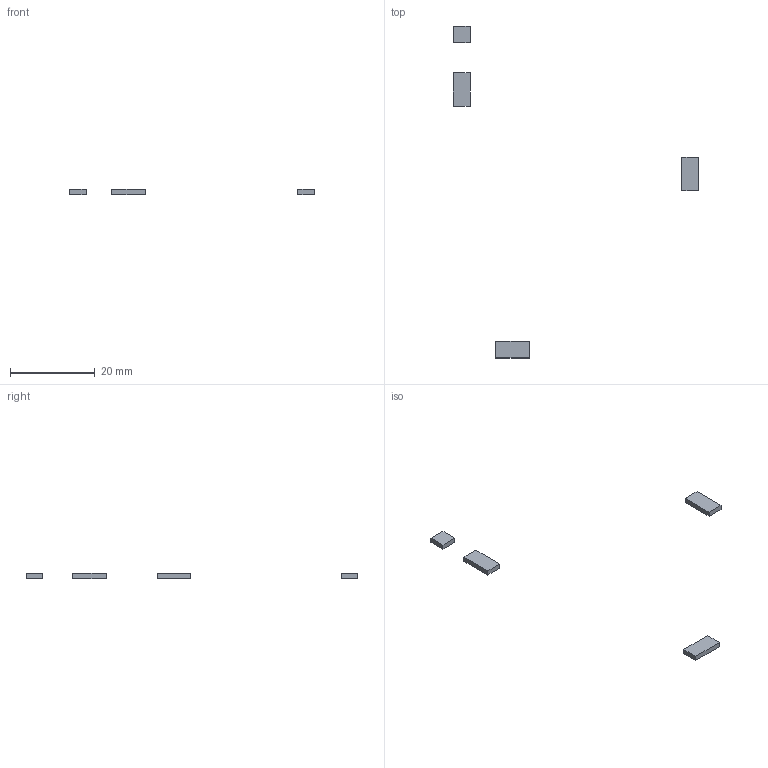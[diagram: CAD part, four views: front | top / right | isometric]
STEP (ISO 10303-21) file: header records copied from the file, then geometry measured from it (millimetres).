
FILE_DESCRIPTION(('Open CASCADE Model'),'2;1');
FILE_NAME('Open CASCADE Shape Model','2026-09-09T12:58:10',('Author'),( 'Open CASCADE'),'Open CASCADE STEP processor 7.9','Open CASCADE 7.9' ,'Unknown');
FILE_SCHEMA(('AUTOMOTIVE_DESIGN { 1 0 10303 214 1 1 1 1 }'));
Length unit declared in the file: millimetre
Products named in the file (5): Open CASCADE STEP translator 7.9 28; Open CASCADE STEP translator 7.9 28.1; Open CASCADE STEP translator 7.9 28.2; Open CASCADE STEP translator 7.9 28.3; Open CASCADE STEP translator 7.9 28.4
Assembly tree (4 placements, depth 2):
  Open CASCADE STEP translator 7.9 28
    Open CASCADE STEP translator 7.9 28.1
    Open CASCADE STEP translator 7.9 28.2
    Open CASCADE STEP translator 7.9 28.3
    Open CASCADE STEP translator 7.9 28.4
Bounding box: 58 x 78.5 x 1.2 mm (x, y, z)
Volume: 134.4 mm3; surface area: 329.6 mm2
Topology: 4 solids, 4 shells, 24 faces, 48 edges, 32 vertices
Faces by surface type: plane 24
Entity records: 1312 total; most frequent: CARTESIAN_POINT 205, DIRECTION 202, LINE 144, VECTOR 144, ORIENTED_EDGE 96, PCURVE 96, DEFINITIONAL_REPRESENTATION 96, EDGE_CURVE 48
